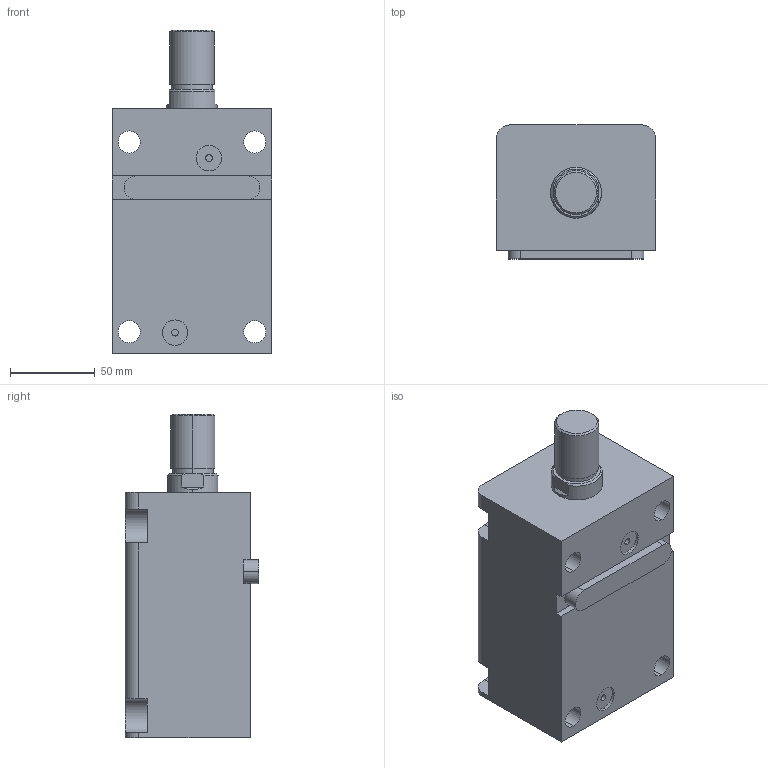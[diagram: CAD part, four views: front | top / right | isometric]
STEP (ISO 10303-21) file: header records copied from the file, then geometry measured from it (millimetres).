
FILE_DESCRIPTION (( 'STEP AP203' ), '1' );
FILE_NAME ('HTB-LAM50-85W.STEP', '2023-03-20T01:12:22', ( '微软用户' ), ( '微软中国' ), 'SwSTEP 2.0', 'SolidWorks 2012', '' );
FILE_SCHEMA (( 'CONFIG_CONTROL_DESIGN' ));
Length unit declared in the file: millimetre
Products named in the file (4): HTB-LAM50-85掛极; HTB-LAM50-85W; HTB-LWM50-瑩; HTB-LAM50-85W活塞杆
Assembly tree (3 placements, depth 2):
  HTB-LAM50-85W
    HTB-LAM50-85掛极
    HTB-LAM50-85W活塞杆
    HTB-LWM50-瑩
Bounding box: 94 x 79 x 191 mm (x, y, z)
Volume: 877118 mm3; surface area: 120707 mm2
Topology: 3 solids, 3 shells, 90 faces, 219 edges, 144 vertices
Faces by surface type: cylinder 41, plane 41, cone 4, torus 4
Entity records: 3107 total; most frequent: DIRECTION 497, CARTESIAN_POINT 487, ORIENTED_EDGE 438, EDGE_CURVE 219, AXIS2_PLACEMENT_3D 190, VERTEX_POINT 144, LINE 117, VECTOR 117
